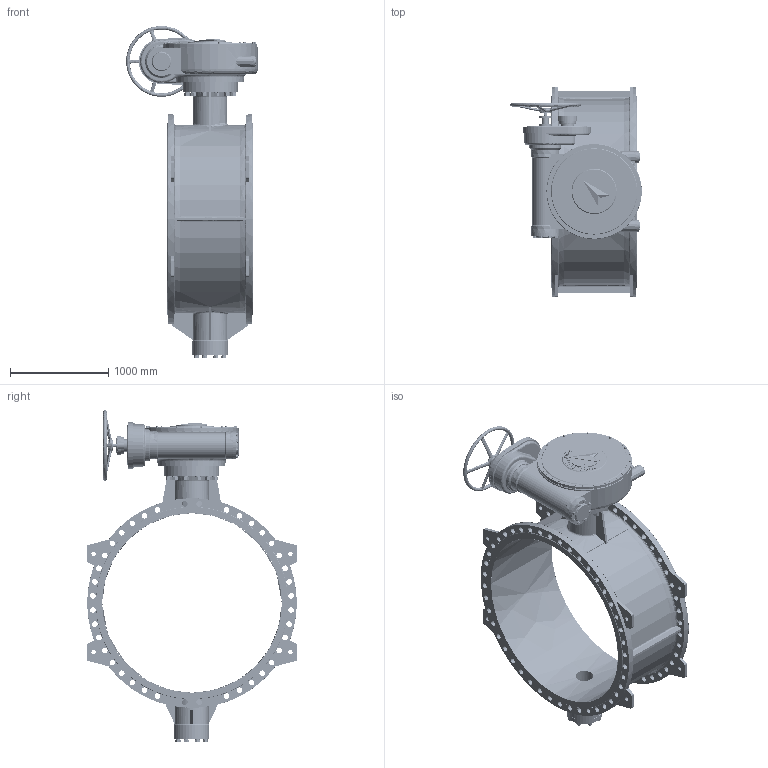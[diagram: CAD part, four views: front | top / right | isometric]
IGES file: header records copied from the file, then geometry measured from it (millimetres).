
Start section: SolidWorks IGES file using analytic representation for surfaces
Global section: file name: C:\Users\Administrator\Desktop\8#恦謫眊F40\1800 16\igs\1800 16_1.IGS,15; native system: HSolidWorks 2012; preprocessor: SolidWorks 2012; author: Administrator; date: 150115.113430; units: millimetre
Bounding box: 1339.31 x 2140 x 3375.01 mm (x, y, z)
Surface area: 27803611.6 mm2 (no closed solid volume)
Topology: 0 solids, 0 shells, 5398 faces, 61731 edges, 61614 vertices
Faces by surface type: revolution 2823, bspline 2575
